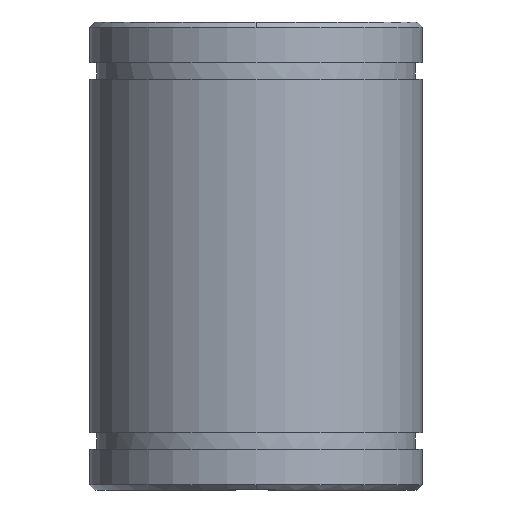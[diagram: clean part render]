
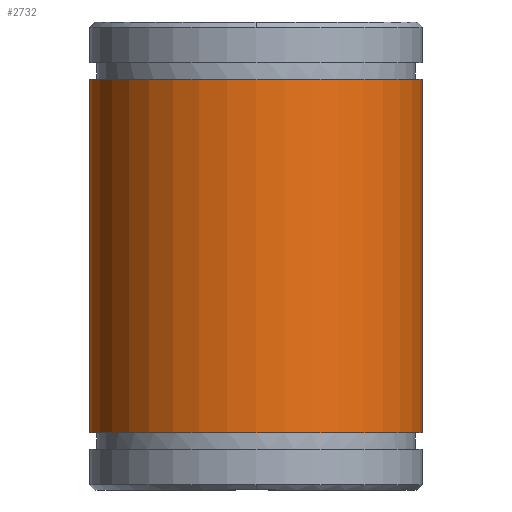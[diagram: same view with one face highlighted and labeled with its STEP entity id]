
A CAD part, front view. The second image highlights one B-rep face of the part: STEP entity #2732.
In plain terms, the highlighted cylindrical face has radius 16 mm (diameter 32 mm), a partial arc.
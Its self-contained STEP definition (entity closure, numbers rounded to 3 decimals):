
#2631=CARTESIAN_POINT('Axis2P3D Location',(0.,0.,5.5)) ;
#2635=CARTESIAN_POINT('Vertex',(-16.,0.,5.5)) ;
#2637=CARTESIAN_POINT('Vertex',(16.,0.,5.5)) ;
#2702=CARTESIAN_POINT('Axis2P3D Location',(0.,0.,-2.25)) ;
#2707=CARTESIAN_POINT('Line Origine',(-16.,0.,-2.25)) ;
#2711=CARTESIAN_POINT('Vertex',(-16.,0.,39.5)) ;
#2714=CARTESIAN_POINT('Line Origine',(16.,0.,-2.25)) ;
#2718=CARTESIAN_POINT('Vertex',(16.,0.,39.5)) ;
#2721=CARTESIAN_POINT('Axis2P3D Location',(0.,0.,39.5)) ;
#2632=DIRECTION('Axis2P3D Direction',(0.,0.,1.)) ;
#2703=DIRECTION('Axis2P3D Direction',(0.,0.,1.)) ;
#2704=DIRECTION('Axis2P3D XDirection',(-1.,0.,0.)) ;
#2708=DIRECTION('Vector Direction',(0.,0.,1.)) ;
#2715=DIRECTION('Vector Direction',(0.,0.,1.)) ;
#2722=DIRECTION('Axis2P3D Direction',(0.,0.,1.)) ;
#2633=AXIS2_PLACEMENT_3D('Circle Axis2P3D',#2631,#2632,$) ;
#2705=AXIS2_PLACEMENT_3D('Cylinder Axis2P3D',#2702,#2703,#2704) ;
#2723=AXIS2_PLACEMENT_3D('Circle Axis2P3D',#2721,#2722,$) ;
#2727=ORIENTED_EDGE('',*,*,#2713,.T.) ;
#2728=ORIENTED_EDGE('',*,*,#2639,.T.) ;
#2729=ORIENTED_EDGE('',*,*,#2720,.F.) ;
#2730=ORIENTED_EDGE('',*,*,#2725,.F.) ;
#2709=VECTOR('Line Direction',#2708,1.) ;
#2716=VECTOR('Line Direction',#2715,1.) ;
#2732=ADVANCED_FACE('MANIFOLD_SOLID_BREP #2066',(#2731),#2706,.T.) ;
#2634=CIRCLE('generated circle',#2633,16.) ;
#2724=CIRCLE('generated circle',#2723,16.) ;
#2706=CYLINDRICAL_SURFACE('generated cylinder',#2705,16.) ;
#2639=EDGE_CURVE('',#2636,#2638,#2634,.T.) ;
#2713=EDGE_CURVE('',#2712,#2636,#2710,.F.) ;
#2720=EDGE_CURVE('',#2719,#2638,#2717,.F.) ;
#2725=EDGE_CURVE('',#2712,#2719,#2724,.T.) ;
#2726=EDGE_LOOP('',(#2727,#2728,#2729,#2730)) ;
#2731=FACE_OUTER_BOUND('',#2726,.T.) ;
#2710=LINE('Line',#2707,#2709) ;
#2717=LINE('Line',#2714,#2716) ;
#2636=VERTEX_POINT('',#2635) ;
#2638=VERTEX_POINT('',#2637) ;
#2712=VERTEX_POINT('',#2711) ;
#2719=VERTEX_POINT('',#2718) ;
